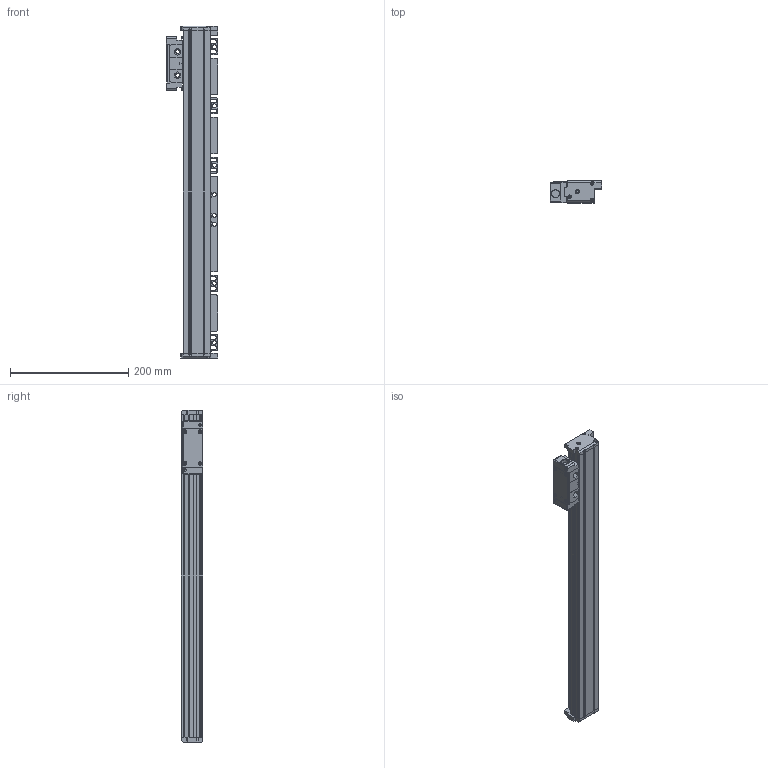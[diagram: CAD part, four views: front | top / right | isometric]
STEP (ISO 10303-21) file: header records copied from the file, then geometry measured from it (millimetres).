
FILE_DESCRIPTION(/* description */ (''),/* implementation_level */ '2;1');
FILE_NAME(/* name */ 'JC21A-440-1.stp',/* time_stamp */ '2023-12-21T16:35:21+08:00',/* author */ (''),/* organization */ (''),/* preprocessor_version */ 'ST-DEVELOPER v14',/* originating_system */ 'SIEMENS PLM Software NX 8.0',/* authorisation */ '');
FILE_SCHEMA (('CONFIG_CONTROL_DESIGN'));
Length unit declared in the file: millimetre
Products named in the file (1): JC21A-440-1
Bounding box: 87.5 x 37 x 561 mm (x, y, z)
Volume: 935695.4 mm3; surface area: 168703.2 mm2
Topology: 4 solids, 6 shells, 561 faces, 1602 edges, 1059 vertices
Faces by surface type: plane 346, cylinder 183, cone 22, bspline 8, extrusion 2
Full cylindrical faces by diameter (mm): 2.5 x12, 3.3 x6, 3.7 x4, 4.2 x4, 5 x2, 6 x6, 6.6 x2, 6.8 x8, 7 x2, 13.2 x2
Entity records: 18417 total; most frequent: CARTESIAN_POINT 3735, ORIENTED_EDGE 3016, DIRECTION 2996, EDGE_CURVE 1508, VERTEX_POINT 1035, VECTOR 1018, LINE 1016, AXIS2_PLACEMENT_3D 989
